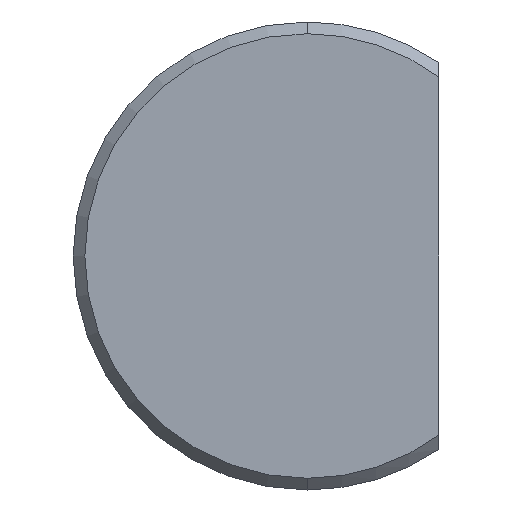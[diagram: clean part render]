
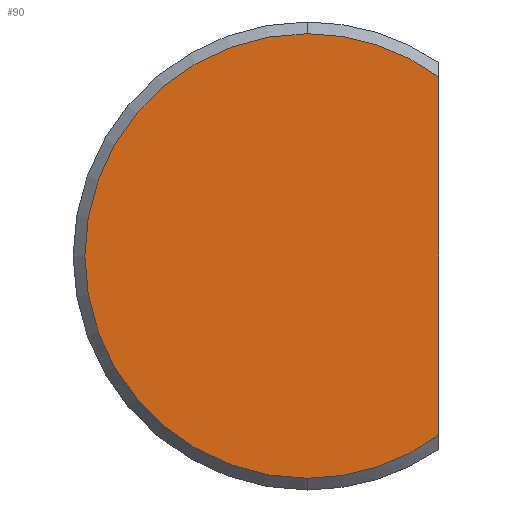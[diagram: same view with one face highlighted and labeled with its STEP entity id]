
A CAD part, front view. The second image highlights one B-rep face of the part: STEP entity #90.
In plain terms, the highlighted planar face has unit normal (0, -1, 0).
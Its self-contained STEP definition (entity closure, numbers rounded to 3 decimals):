
#4 = CARTESIAN_POINT ( 'NONE',  ( 2.25, 0., -3.307 ) ) ;
#28 = EDGE_CURVE ( 'NONE', #174, #478, #150, .T. ) ;
#35 = LINE ( 'NONE', #4, #129 ) ;
#57 = DIRECTION ( 'NONE',  ( 0., 0., -1. ) ) ;
#67 = EDGE_CURVE ( 'NONE', #478, #309, #35, .T. ) ;
#83 = CARTESIAN_POINT ( 'NONE',  ( 0., 0., 0. ) ) ;
#87 = CARTESIAN_POINT ( 'NONE',  ( 2.25, 0., -3.062 ) ) ;
#90 = ADVANCED_FACE ( 'NONE', ( #374 ), #204, .T. ) ;
#114 = ORIENTED_EDGE ( 'NONE', *, *, #67, .T. ) ;
#115 = CARTESIAN_POINT ( 'NONE',  ( 0., 0., 0. ) ) ;
#116 = CIRCLE ( 'NONE', #416, 3.8 ) ;
#117 = CARTESIAN_POINT ( 'NONE',  ( 0., 0., -3.8 ) ) ;
#129 = VECTOR ( 'NONE', #156, 1000. ) ;
#139 = DIRECTION ( 'NONE',  ( 0., 0., -1. ) ) ;
#141 = CARTESIAN_POINT ( 'NONE',  ( 0., 0., 3.8 ) ) ;
#150 = CIRCLE ( 'NONE', #411, 3.8 ) ;
#156 = DIRECTION ( 'NONE',  ( 0., 0., 1. ) ) ;
#174 = VERTEX_POINT ( 'NONE', #117 ) ;
#204 = PLANE ( 'NONE',  #557 ) ;
#296 = ORIENTED_EDGE ( 'NONE', *, *, #328, .T. ) ;
#309 = VERTEX_POINT ( 'NONE', #346 ) ;
#310 = DIRECTION ( 'NONE',  ( 0., 0., -1. ) ) ;
#315 = ORIENTED_EDGE ( 'NONE', *, *, #417, .T. ) ;
#328 = EDGE_CURVE ( 'NONE', #452, #174, #116, .T. ) ;
#346 = CARTESIAN_POINT ( 'NONE',  ( 2.25, 0., 3.062 ) ) ;
#349 = DIRECTION ( 'NONE',  ( 0., 0., -1. ) ) ;
#374 = FACE_OUTER_BOUND ( 'NONE', #565, .T. ) ;
#400 = CARTESIAN_POINT ( 'NONE',  ( 0., 0., 0. ) ) ;
#411 = AXIS2_PLACEMENT_3D ( 'NONE', #400, #586, #139 ) ;
#416 = AXIS2_PLACEMENT_3D ( 'NONE', #115, #577, #349 ) ;
#417 = EDGE_CURVE ( 'NONE', #309, #452, #600, .T. ) ;
#419 = DIRECTION ( 'NONE',  ( 0., -1., 0. ) ) ;
#443 = DIRECTION ( 'NONE',  ( 0., -1., 0. ) ) ;
#452 = VERTEX_POINT ( 'NONE', #141 ) ;
#464 = ORIENTED_EDGE ( 'NONE', *, *, #28, .T. ) ;
#478 = VERTEX_POINT ( 'NONE', #87 ) ;
#508 = AXIS2_PLACEMENT_3D ( 'NONE', #83, #443, #310 ) ;
#557 = AXIS2_PLACEMENT_3D ( 'NONE', #559, #419, #57 ) ;
#559 = CARTESIAN_POINT ( 'NONE',  ( 0., 0., 0. ) ) ;
#565 = EDGE_LOOP ( 'NONE', ( #315, #296, #464, #114 ) ) ;
#577 = DIRECTION ( 'NONE',  ( 0., -1., 0. ) ) ;
#586 = DIRECTION ( 'NONE',  ( 0., -1., 0. ) ) ;
#600 = CIRCLE ( 'NONE', #508, 3.8 ) ;
